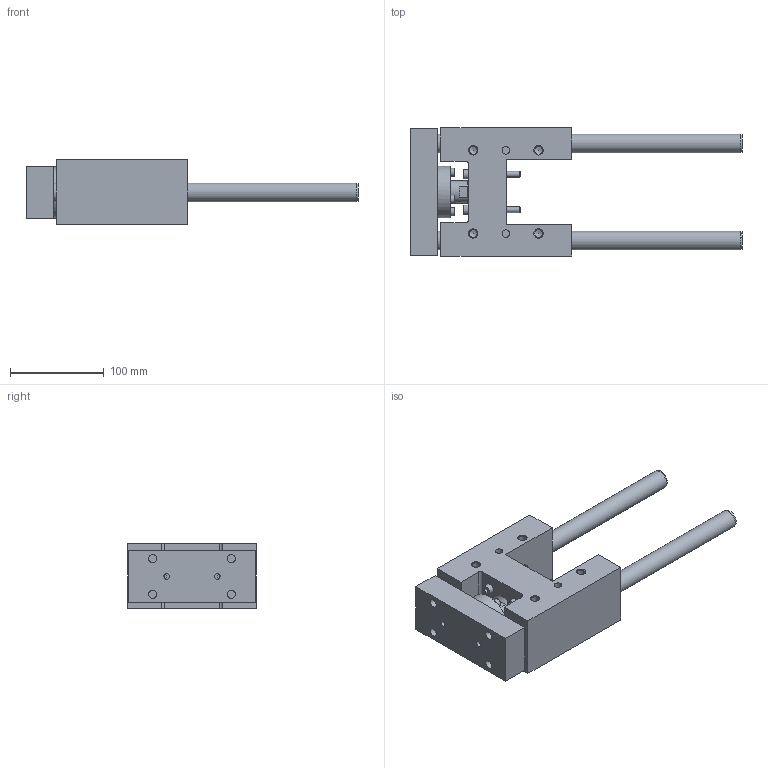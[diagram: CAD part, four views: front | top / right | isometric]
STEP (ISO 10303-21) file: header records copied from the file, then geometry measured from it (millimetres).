
FILE_DESCRIPTION( ( 'STEP AP214' ), '1' );
FILE_NAME( 'U:/Etudes/Top Solid/BIBLIO 3D AVM/TOP/PNEUMATIQUE/GUIDAGES/Type 32 (en H)/R_Renforcée/325R3_30.step', '2005-05-27T08:56:10', ( ' ' ), ( ' ' ), 'XStep 1.0', ' ', ' ' );
FILE_SCHEMA( ( 'automotive_design' ) );
Length unit declared in the file: metre
Products named in the file (2): 1; 2
Bounding box: 355 x 137 x 69 mm (x, y, z)
Volume: 1169259.5 mm3; surface area: 188423.8 mm2
Topology: 2 solids, 7 shells, 223 faces, 504 edges, 337 vertices
Faces by surface type: plane 128, cylinder 74, cone 21
Full cylindrical faces by diameter (mm): 5 x8, 6 x10, 6.5 x8, 6.647 x4, 8 x2, 8.376 x8, 8.5 x4, 9 x4, 10 x4, 10.2 x4, 10.647 x2, 15 x4, 20 x4, 24 x1, 26 x1, 34 x1, 35 x1, 37 x1, 55 x1
Entity records: 7481 total; most frequent: CARTESIAN_POINT 1145, DIRECTION 956, ORIENTED_EDGE 724, EDGE_LOOP 386, AXIS2_PLACEMENT_3D 377, EDGE_CURVE 362, FACE_OUTER_BOUND 295, VERTEX_POINT 294
